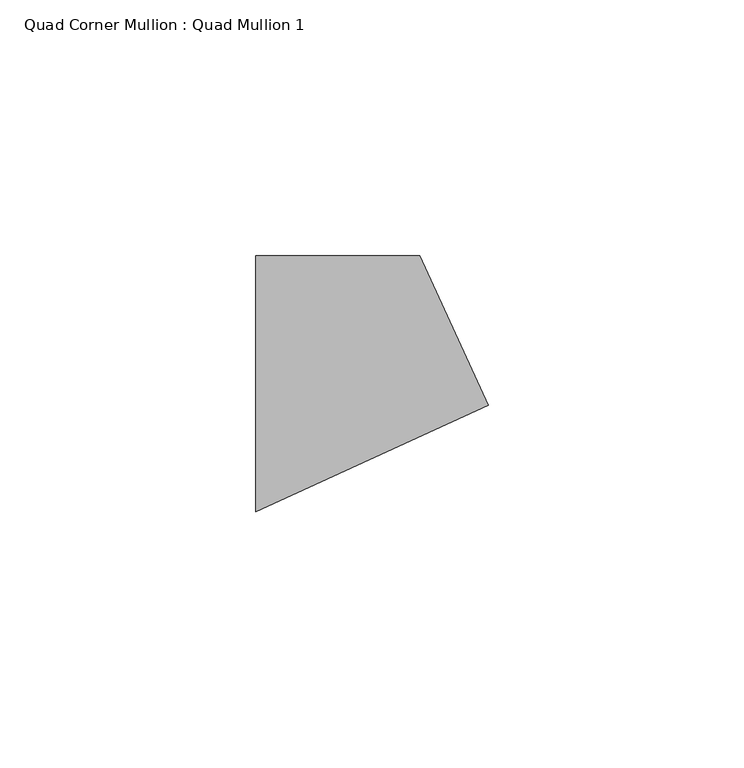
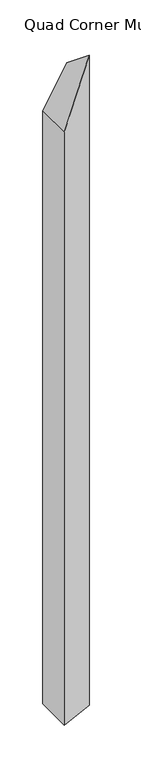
"""IFC4 building model written with IfcOpenShell, lengths in millimetres: member geometry, Quad Corner Mullion : Quad Mullion 1."""

from ifc_helpers import new_model, si_unit, origin, place, context, project, spatial, faceted_brep, source, transform, mapped, element, save


def quad_corner_mullion_quad_mullion_1_7f801fd2(model_context):
    return source(origin(), model_context, "Body", "Brep", [
        faceted_brep([(29.4125559, -4.1926582, -873.6961637), (-16.0523154, -25.0, -873.6961637), (-16.0523154, 25.0, -873.6961637), (16.0523154, 25.0, -873.6961637), (16.0523154, 25.0, 28.7542769), (29.4125559, -4.1926582, 52.6862797), (-16.0523154, 25.0, -28.7542769), (-16.0523154, -25.0, -28.7542769)], [[[0, 1, 2, 3]], [[4, 5, 0, 3]], [[6, 4, 3, 2]], [[7, 6, 2, 1]], [[5, 7, 1, 0]], [[5, 4, 6, 7]]]),
    ])


if __name__ == "__main__":
    model = new_model("IFC4")
    model_context = context("Model", 3, world=origin())
    ifc_project = project(units=[si_unit("LENGTHUNIT", "METRE", prefix="MILLI")], contexts=[model_context])
    site = spatial("IfcSite", under=ifc_project)
    building = spatial("IfcBuilding", under=site)
    placement = place(None, origin())
    quad_corner_mullion_quad_mullion_1_shape = quad_corner_mullion_quad_mullion_1_7f801fd2(model_context)
    element("IfcMember", 1, ObjectType="Quad Corner Mullion : Quad Mullion 1", at=placement, inside=building, context=model_context, shape_type="MappedRepresentation", body=[
        mapped(quad_corner_mullion_quad_mullion_1_shape, transform((0.0, 0.0, 0.0), x_axis=(1.0, 0.0, 0.0), y_axis=(0.0, 1.0, 0.0), z_axis=(0.0, 0.0, 1.0))),
    ])
    save(model, "model.ifc")
